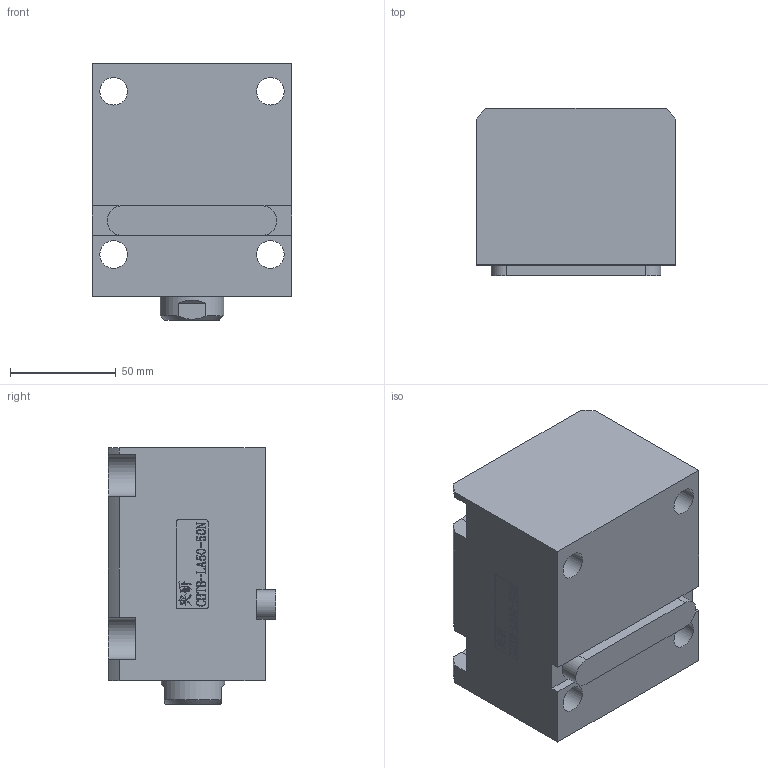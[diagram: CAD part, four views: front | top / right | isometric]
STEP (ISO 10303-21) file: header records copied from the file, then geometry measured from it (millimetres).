
FILE_DESCRIPTION(/* description */ (''),/* implementation_level */ '2;1');
FILE_NAME(/* name */ 'CHTB-LA50-50N.stp',/* time_stamp */ '2022-04-29T17:58:51+08:00',/* author */ (''),/* organization */ (''),/* preprocessor_version */ 'ST-DEVELOPER v16.7',/* originating_system */ 'SIEMENS PLM Software NX 12.0',/* authorisation */ '');
FILE_SCHEMA (('AUTOMOTIVE_DESIGN { 1 0 10303 214 3 1 1 1 }'));
Length unit declared in the file: millimetre
Products named in the file (1): CHTB-LA50-50N
Bounding box: 94 x 79 x 121 mm (x, y, z)
Volume: 646173.8 mm3; surface area: 112724.9 mm2
Topology: 3 solids, 3 shells, 424 faces, 1162 edges, 784 vertices
Faces by surface type: plane 278, extrusion 75, cylinder 41, torus 11, cone 11, bspline 8
Full cylindrical faces by diameter (mm): 4 x2, 5 x2, 10.7 x2, 13 x4, 19 x1, 30 x2, 39 x1, 44 x2, 46 x1, 50 x5, 59 x1
Entity records: 20134 total; most frequent: CARTESIAN_POINT 7814, ORIENTED_EDGE 2206, DIRECTION 1733, EDGE_CURVE 1103, VECTOR 851, LINE 776, VERTEX_POINT 776, EDGE_LOOP 526
